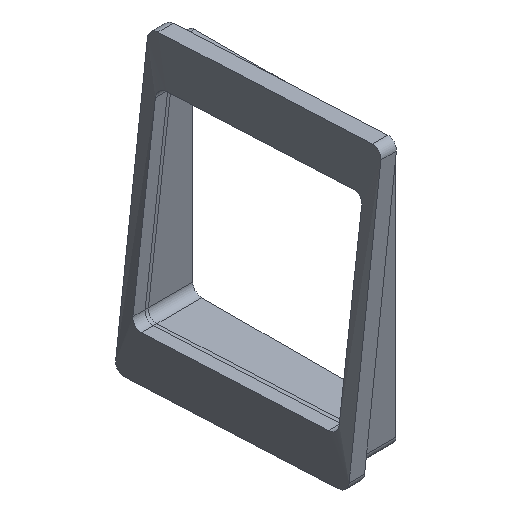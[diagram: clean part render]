
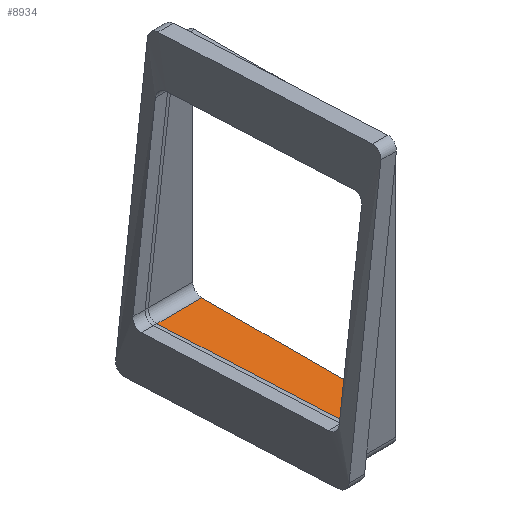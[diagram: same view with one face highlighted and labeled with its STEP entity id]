
A CAD part, isometric view. The second image highlights one B-rep face of the part: STEP entity #8934.
In plain terms, the highlighted planar face has unit normal (0, 0, 1).
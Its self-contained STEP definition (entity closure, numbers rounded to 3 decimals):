
#5772 = PLANE('',#5773);
#5773 = AXIS2_PLACEMENT_3D('',#5774,#5775,#5776);
#5774 = CARTESIAN_POINT('',(-5.,-91.,39.4));
#5775 = DIRECTION('',(0.,0.,1.));
#5776 = DIRECTION('',(0.,1.,0.));
#7090 = VERTEX_POINT('',#7091);
#7091 = CARTESIAN_POINT('',(3.678,-76.5,39.4));
#7172 = CYLINDRICAL_SURFACE('',#7173,0.7);
#7173 = AXIS2_PLACEMENT_3D('',#7174,#7175,#7176);
#7174 = CARTESIAN_POINT('',(-5.,-76.5,40.1));
#7175 = DIRECTION('',(1.,0.,0.));
#7176 = DIRECTION('',(0.,0.,-1.));
#8021 = VERTEX_POINT('',#8022);
#8022 = CARTESIAN_POINT('',(4.362,-90.3,39.4));
#8083 = CYLINDRICAL_SURFACE('',#8084,0.7);
#8084 = AXIS2_PLACEMENT_3D('',#8085,#8086,#8087);
#8085 = CARTESIAN_POINT('',(-5.,-90.3,40.1));
#8086 = DIRECTION('',(1.,0.,0.));
#8087 = DIRECTION('',(0.,0.,-1.));
#8146 = EDGE_CURVE('',#7090,#8021,#8147,.T.);
#8147 = SURFACE_CURVE('',#8148,(#8154,#8163),.PCURVE_S1.);
#8148 = B_SPLINE_CURVE_WITH_KNOTS('',4,(#8149,#8150,#8151,#8152,#8153),
  .UNSPECIFIED.,.F.,.F.,(5,5),(0.,1.),.PIECEWISE_BEZIER_KNOTS.);
#8149 = CARTESIAN_POINT('',(3.678,-76.5,39.4));
#8150 = CARTESIAN_POINT('',(3.835,-79.95,39.4));
#8151 = CARTESIAN_POINT('',(4.001,-83.4,39.4));
#8152 = CARTESIAN_POINT('',(4.177,-86.85,39.4));
#8153 = CARTESIAN_POINT('',(4.362,-90.3,39.4));
#8154 = PCURVE('',#5772,#8155);
#8155 = DEFINITIONAL_REPRESENTATION('',(#8156),#8162);
#8156 = B_SPLINE_CURVE_WITH_KNOTS('',4,(#8157,#8158,#8159,#8160,#8161),
  .UNSPECIFIED.,.F.,.F.,(5,5),(0.,1.),.PIECEWISE_BEZIER_KNOTS.);
#8157 = CARTESIAN_POINT('',(14.5,-8.678));
#8158 = CARTESIAN_POINT('',(11.05,-8.835));
#8159 = CARTESIAN_POINT('',(7.6,-9.001));
#8160 = CARTESIAN_POINT('',(4.15,-9.177));
#8161 = CARTESIAN_POINT('',(0.7,-9.362));
#8162 = ( GEOMETRIC_REPRESENTATION_CONTEXT(2) 
PARAMETRIC_REPRESENTATION_CONTEXT() REPRESENTATION_CONTEXT('2D SPACE',''
  ) );
#8163 = PCURVE('',#8164,#8169);
#8164 = PLANE('',#8165);
#8165 = AXIS2_PLACEMENT_3D('',#8166,#8167,#8168);
#8166 = CARTESIAN_POINT('',(-5.,-91.,39.4));
#8167 = DIRECTION('',(0.,0.,1.));
#8168 = DIRECTION('',(0.,1.,0.));
#8169 = DEFINITIONAL_REPRESENTATION('',(#8170),#8176);
#8170 = B_SPLINE_CURVE_WITH_KNOTS('',4,(#8171,#8172,#8173,#8174,#8175),
  .UNSPECIFIED.,.F.,.F.,(5,5),(0.,1.),.PIECEWISE_BEZIER_KNOTS.);
#8171 = CARTESIAN_POINT('',(14.5,-8.678));
#8172 = CARTESIAN_POINT('',(11.05,-8.835));
#8173 = CARTESIAN_POINT('',(7.6,-9.001));
#8174 = CARTESIAN_POINT('',(4.15,-9.177));
#8175 = CARTESIAN_POINT('',(0.7,-9.362));
#8176 = ( GEOMETRIC_REPRESENTATION_CONTEXT(2) 
PARAMETRIC_REPRESENTATION_CONTEXT() REPRESENTATION_CONTEXT('2D SPACE',''
  ) );
#8243 = PLANE('',#8244);
#8244 = AXIS2_PLACEMENT_3D('',#8245,#8246,#8247);
#8245 = CARTESIAN_POINT('',(7.152,-93.,35.1));
#8246 = DIRECTION('',(1.,0.,-0.));
#8247 = DIRECTION('',(0.,0.,1.));
#8574 = EDGE_CURVE('',#7090,#8575,#8577,.T.);
#8575 = VERTEX_POINT('',#8576);
#8576 = CARTESIAN_POINT('',(7.152,-76.5,39.4));
#8577 = SURFACE_CURVE('',#8578,(#8582,#8589),.PCURVE_S1.);
#8578 = LINE('',#8579,#8580);
#8579 = CARTESIAN_POINT('',(-5.,-76.5,39.4));
#8580 = VECTOR('',#8581,1.);
#8581 = DIRECTION('',(1.,0.,0.));
#8582 = PCURVE('',#7172,#8583);
#8583 = DEFINITIONAL_REPRESENTATION('',(#8584),#8588);
#8584 = LINE('',#8585,#8586);
#8585 = CARTESIAN_POINT('',(0.,0.));
#8586 = VECTOR('',#8587,1.);
#8587 = DIRECTION('',(0.,1.));
#8588 = ( GEOMETRIC_REPRESENTATION_CONTEXT(2) 
PARAMETRIC_REPRESENTATION_CONTEXT() REPRESENTATION_CONTEXT('2D SPACE',''
  ) );
#8589 = PCURVE('',#8164,#8590);
#8590 = DEFINITIONAL_REPRESENTATION('',(#8591),#8595);
#8591 = LINE('',#8592,#8593);
#8592 = CARTESIAN_POINT('',(14.5,0.));
#8593 = VECTOR('',#8594,1.);
#8594 = DIRECTION('',(0.,-1.));
#8595 = ( GEOMETRIC_REPRESENTATION_CONTEXT(2) 
PARAMETRIC_REPRESENTATION_CONTEXT() REPRESENTATION_CONTEXT('2D SPACE',''
  ) );
#8887 = EDGE_CURVE('',#8021,#8888,#8890,.T.);
#8888 = VERTEX_POINT('',#8889);
#8889 = CARTESIAN_POINT('',(7.152,-90.3,39.4));
#8890 = SURFACE_CURVE('',#8891,(#8895,#8902),.PCURVE_S1.);
#8891 = LINE('',#8892,#8893);
#8892 = CARTESIAN_POINT('',(-5.,-90.3,39.4));
#8893 = VECTOR('',#8894,1.);
#8894 = DIRECTION('',(1.,0.,0.));
#8895 = PCURVE('',#8083,#8896);
#8896 = DEFINITIONAL_REPRESENTATION('',(#8897),#8901);
#8897 = LINE('',#8898,#8899);
#8898 = CARTESIAN_POINT('',(-0.,0.));
#8899 = VECTOR('',#8900,1.);
#8900 = DIRECTION('',(-0.,1.));
#8901 = ( GEOMETRIC_REPRESENTATION_CONTEXT(2) 
PARAMETRIC_REPRESENTATION_CONTEXT() REPRESENTATION_CONTEXT('2D SPACE',''
  ) );
#8902 = PCURVE('',#8164,#8903);
#8903 = DEFINITIONAL_REPRESENTATION('',(#8904),#8908);
#8904 = LINE('',#8905,#8906);
#8905 = CARTESIAN_POINT('',(0.7,0.));
#8906 = VECTOR('',#8907,1.);
#8907 = DIRECTION('',(0.,-1.));
#8908 = ( GEOMETRIC_REPRESENTATION_CONTEXT(2) 
PARAMETRIC_REPRESENTATION_CONTEXT() REPRESENTATION_CONTEXT('2D SPACE',''
  ) );
#8934 = ADVANCED_FACE('',(#8935),#8164,.T.);
#8935 = FACE_BOUND('',#8936,.T.);
#8936 = EDGE_LOOP('',(#8937,#8938,#8939,#8940));
#8937 = ORIENTED_EDGE('',*,*,#8574,.F.);
#8938 = ORIENTED_EDGE('',*,*,#8146,.T.);
#8939 = ORIENTED_EDGE('',*,*,#8887,.T.);
#8940 = ORIENTED_EDGE('',*,*,#8941,.T.);
#8941 = EDGE_CURVE('',#8888,#8575,#8942,.T.);
#8942 = SURFACE_CURVE('',#8943,(#8947,#8953),.PCURVE_S1.);
#8943 = LINE('',#8944,#8945);
#8944 = CARTESIAN_POINT('',(7.152,-92.,39.4));
#8945 = VECTOR('',#8946,1.);
#8946 = DIRECTION('',(-0.,1.,0.));
#8947 = PCURVE('',#8164,#8948);
#8948 = DEFINITIONAL_REPRESENTATION('',(#8949),#8952);
#8949 = B_SPLINE_CURVE_WITH_KNOTS('',1,(#8950,#8951),.UNSPECIFIED.,.F.,
  .F.,(2,2),(1.7,15.5),.PIECEWISE_BEZIER_KNOTS.);
#8950 = CARTESIAN_POINT('',(0.7,-12.152));
#8951 = CARTESIAN_POINT('',(14.5,-12.152));
#8952 = ( GEOMETRIC_REPRESENTATION_CONTEXT(2) 
PARAMETRIC_REPRESENTATION_CONTEXT() REPRESENTATION_CONTEXT('2D SPACE',''
  ) );
#8953 = PCURVE('',#8243,#8954);
#8954 = DEFINITIONAL_REPRESENTATION('',(#8955),#8958);
#8955 = B_SPLINE_CURVE_WITH_KNOTS('',1,(#8956,#8957),.UNSPECIFIED.,.F.,
  .F.,(2,2),(1.7,15.5),.PIECEWISE_BEZIER_KNOTS.);
#8956 = CARTESIAN_POINT('',(4.3,-2.7));
#8957 = CARTESIAN_POINT('',(4.3,-16.5));
#8958 = ( GEOMETRIC_REPRESENTATION_CONTEXT(2) 
PARAMETRIC_REPRESENTATION_CONTEXT() REPRESENTATION_CONTEXT('2D SPACE',''
  ) );
